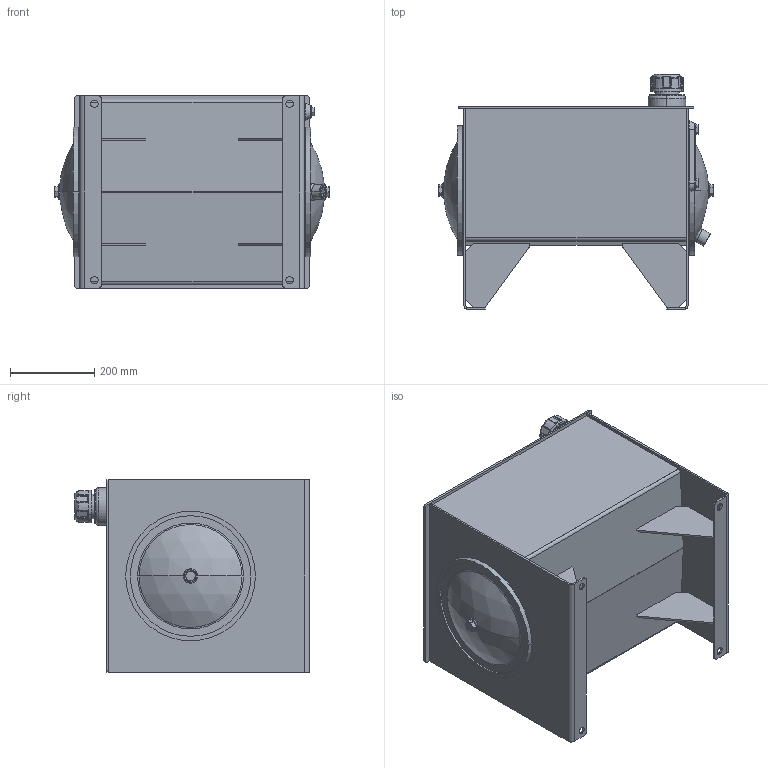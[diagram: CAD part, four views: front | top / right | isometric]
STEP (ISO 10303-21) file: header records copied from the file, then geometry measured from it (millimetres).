
FILE_DESCRIPTION (( 'STEP AP203' ), '1' );
FILE_NAME ('RJIC010-FT.STEP', '2015-01-07T16:44:53', ( '' ), ( '' ), 'SwSTEP 2.0', 'SolidWorks 2014', '' );
FILE_SCHEMA (( 'CONFIG_CONTROL_DESIGN' ));
Length unit declared in the file: inch
Products named in the file (1): RJIC010-FT
Bounding box: 654.59 x 558.16 x 457.2 mm (x, y, z)
Volume: 6580592.2 mm3; surface area: 3480728.1 mm2
Topology: 24 solids, 24 shells, 743 faces, 1749 edges, 1057 vertices
Faces by surface type: cylinder 268, plane 248, cone 84, torus 60, bspline 51, sphere 32
Entity records: 24330 total; most frequent: CARTESIAN_POINT 7004, DIRECTION 3788, ORIENTED_EDGE 3474, EDGE_CURVE 1737, AXIS2_PLACEMENT_3D 1511, VERTEX_POINT 1057, EDGE_LOOP 852, CIRCLE 818
